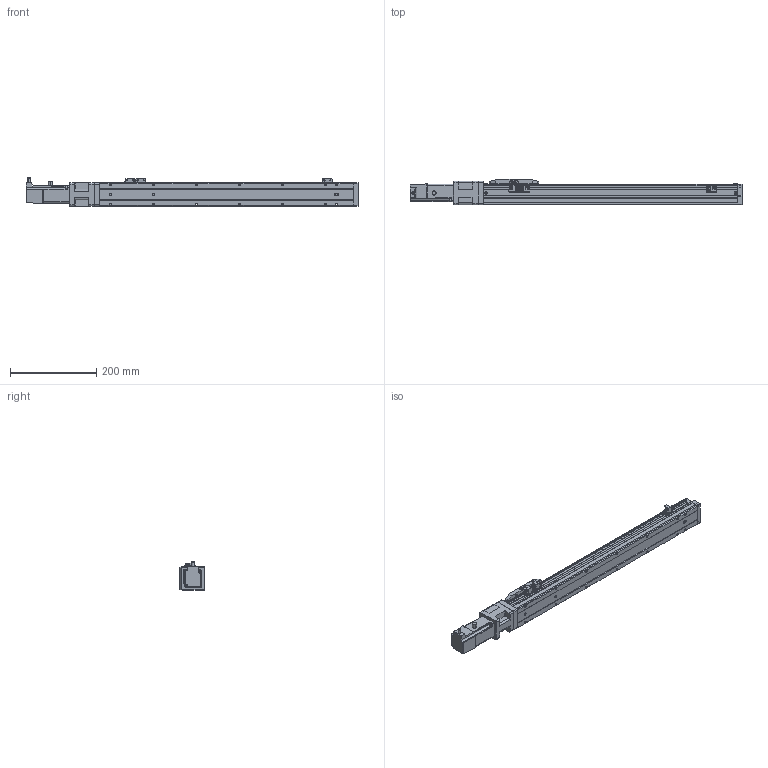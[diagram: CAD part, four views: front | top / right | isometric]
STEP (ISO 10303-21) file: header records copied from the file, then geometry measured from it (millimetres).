
FILE_DESCRIPTION (( 'STEP AP203' ), '1' );
FILE_NAME ('CTH5-L10-S450-BC-C10(¼ò).STEP', '2023-02-04T02:08:28', ( '' ), ( '' ), 'SwSTEP 2.0', 'SolidWorks 2018', '' );
FILE_SCHEMA (( 'CONFIG_CONTROL_DESIGN' ));
Length unit declared in the file: millimetre
Products named in the file (21): CTH5覜茼え; hex nuts, style 1-grades ab gb_GB_FASTENER_NUT_SNAB1 M3-N; PM-Y45; CTH5耜晚蹟隊; CTH5萇儂釱; 嫖萇羲壽郪磁1; CTH嫖萇羲壽假蚾啣; M3｡｣; M3; CTH5萇儂釱欶; CTH5耜晚蹟隊-1; CTH5綴耜啣; T10-p1; 内六角圆柱头螺钉M3-2; 100W萇儂; CTH5ヶ耜啣(潠); CTH5-BC-03; CTH5-L10-S450-BC-C10(潠); CTH5菁釱-L590; CTH5賑怢; 葩璃 蚾饜极13^CTH8-L10-S50-BM-C40(潠)1
Assembly tree (37 placements, depth 3):
  CTH5-L10-S450-BC-C10(潠)
    CTH5綴耜啣
    CTH5賑怢
    CTH5ヶ耜啣(潠)
    CTH5菁釱-L590
    CTH5耜晚蹟隊  x2
    CTH5萇儂釱
      CTH5-BC-03
    CTH5萇儂釱欶
    100W萇儂
      T10-p1
    嫖萇羲壽郪磁1  x2
      CTH嫖萇羲壽假蚾啣
      PM-Y45
      M3｡｣
      内六角圆柱头螺钉M3-2
      hex nuts, style 1-grades ab gb_GB_FASTENER_NUT_SNAB1 M3-N
    CTH5覜茼え
    葩璃 蚾饜极13^CTH8-L10-S50-BM-C40(潠)1
      CTH嫖萇羲壽假蚾啣
      PM-Y45
      内六角圆柱头螺钉M3-2  x2
      M3｡｣  x2
      hex nuts, style 1-grades ab gb_GB_FASTENER_NUT_SNAB1 M3-N  x2
    M3  x2
    CTH5耜晚蹟隊-1  x4
Bounding box: 771.1 x 60 x 65.7 mm (x, y, z)
Volume: 1612435.8 mm3; surface area: 240032.7 mm2
Topology: 40 solids, 40 shells, 1527 faces, 3812 edges, 2458 vertices
Faces by surface type: plane 848, cylinder 442, cone 175, torus 44, bspline 18
Entity records: 34245 total; most frequent: CARTESIAN_POINT 6284, DIRECTION 5408, ORIENTED_EDGE 5172, EDGE_CURVE 2586, AXIS2_PLACEMENT_3D 1865, VECTOR 1678, LINE 1678, VERTEX_POINT 1664
